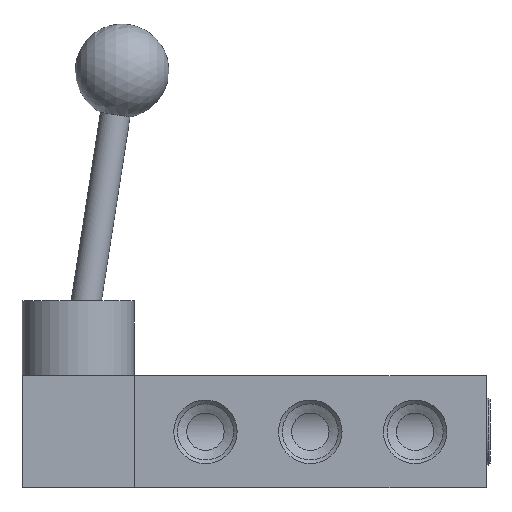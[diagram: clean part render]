
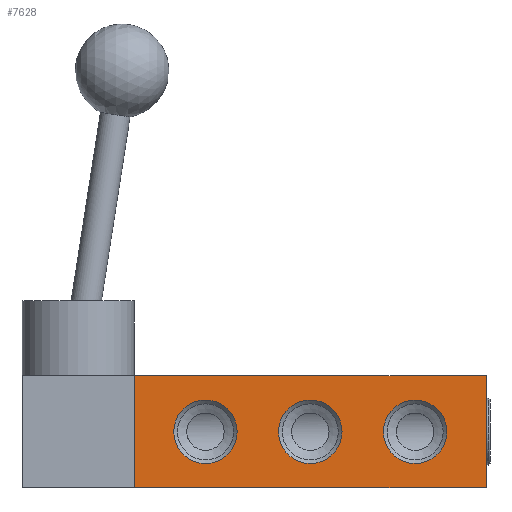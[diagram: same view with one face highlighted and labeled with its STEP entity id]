
A CAD part, front view. The second image highlights one B-rep face of the part: STEP entity #7628.
In plain terms, the highlighted planar face has unit normal (0, -1, 0).
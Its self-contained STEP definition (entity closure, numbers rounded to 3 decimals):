
#387=LINE('',#10186,#957);
#452=LINE('',#10604,#1022);
#483=LINE('',#10854,#1053);
#486=LINE('',#10860,#1056);
#957=VECTOR('',#8703,1000.);
#1022=VECTOR('',#8780,1000.);
#1053=VECTOR('',#8849,1000.);
#1056=VECTOR('',#8856,1000.);
#1935=ORIENTED_EDGE('',*,*,#3198,.T.);
#1936=ORIENTED_EDGE('',*,*,#3199,.T.);
#1937=ORIENTED_EDGE('',*,*,#3200,.T.);
#1938=ORIENTED_EDGE('',*,*,#3042,.T.);
#1939=ORIENTED_EDGE('',*,*,#3185,.T.);
#1940=ORIENTED_EDGE('',*,*,#3126,.F.);
#1941=ORIENTED_EDGE('',*,*,#3181,.F.);
#3042=EDGE_CURVE('',#3721,#3723,#387,.T.);
#3126=EDGE_CURVE('',#3807,#3808,#452,.T.);
#3181=EDGE_CURVE('',#3721,#3807,#483,.T.);
#3185=EDGE_CURVE('',#3723,#3808,#486,.T.);
#3198=EDGE_CURVE('',#3875,#3875,#4143,.F.);
#3199=EDGE_CURVE('',#3876,#3876,#4144,.F.);
#3200=EDGE_CURVE('',#3877,#3877,#4145,.F.);
#3721=VERTEX_POINT('',#10181);
#3723=VERTEX_POINT('',#10185);
#3807=VERTEX_POINT('',#10603);
#3808=VERTEX_POINT('',#10605);
#3875=VERTEX_POINT('',#10893);
#3876=VERTEX_POINT('',#10895);
#3877=VERTEX_POINT('',#10897);
#4143=CIRCLE('',#8040,8.475);
#4144=CIRCLE('',#8041,8.475);
#4145=CIRCLE('',#8042,8.475);
#4355=EDGE_LOOP('',(#1935));
#4356=EDGE_LOOP('',(#1936));
#4357=EDGE_LOOP('',(#1937));
#4358=EDGE_LOOP('',(#1938,#1939,#1940,#1941));
#4813=FACE_BOUND('',#4355,.T.);
#4814=FACE_BOUND('',#4356,.T.);
#4815=FACE_BOUND('',#4357,.T.);
#4816=FACE_BOUND('',#4358,.T.);
#5157=PLANE('',#8039);
#7628=ADVANCED_FACE('',(#4813,#4814,#4815,#4816),#5157,.T.);
#8039=AXIS2_PLACEMENT_3D('',#10891,#8893,#8894);
#8040=AXIS2_PLACEMENT_3D('',#10892,#8895,#8896);
#8041=AXIS2_PLACEMENT_3D('',#10894,#8897,#8898);
#8042=AXIS2_PLACEMENT_3D('',#10896,#8899,#8900);
#8703=DIRECTION('',(1.,0.,0.));
#8780=DIRECTION('',(1.,0.,0.));
#8849=DIRECTION('',(0.,0.,1.));
#8856=DIRECTION('',(0.,0.,1.));
#8893=DIRECTION('',(0.,-1.,0.));
#8894=DIRECTION('',(1.,0.,0.));
#8895=DIRECTION('',(0.,-1.,0.));
#8896=DIRECTION('',(0.,0.,-1.));
#8897=DIRECTION('',(0.,-1.,0.));
#8898=DIRECTION('',(0.,0.,-1.));
#8899=DIRECTION('',(0.,-1.,0.));
#8900=DIRECTION('',(0.,0.,-1.));
#10181=CARTESIAN_POINT('',(-94.,-25.,-15.));
#10185=CARTESIAN_POINT('',(0.,-25.,-15.));
#10186=CARTESIAN_POINT('',(-94.,-25.,-15.));
#10603=CARTESIAN_POINT('',(-94.,-25.,15.));
#10604=CARTESIAN_POINT('',(-94.,-25.,15.));
#10605=CARTESIAN_POINT('',(0.,-25.,15.));
#10854=CARTESIAN_POINT('',(-94.,-25.,-15.));
#10860=CARTESIAN_POINT('',(0.,-25.,-15.));
#10891=CARTESIAN_POINT('',(-94.,-25.,-15.));
#10892=CARTESIAN_POINT('',(-19.,-25.,0.));
#10893=CARTESIAN_POINT('',(-19.,-25.,-8.475));
#10894=CARTESIAN_POINT('',(-47.,-25.,0.));
#10895=CARTESIAN_POINT('',(-47.,-25.,-8.475));
#10896=CARTESIAN_POINT('',(-75.,-25.,0.));
#10897=CARTESIAN_POINT('',(-75.,-25.,-8.475));
